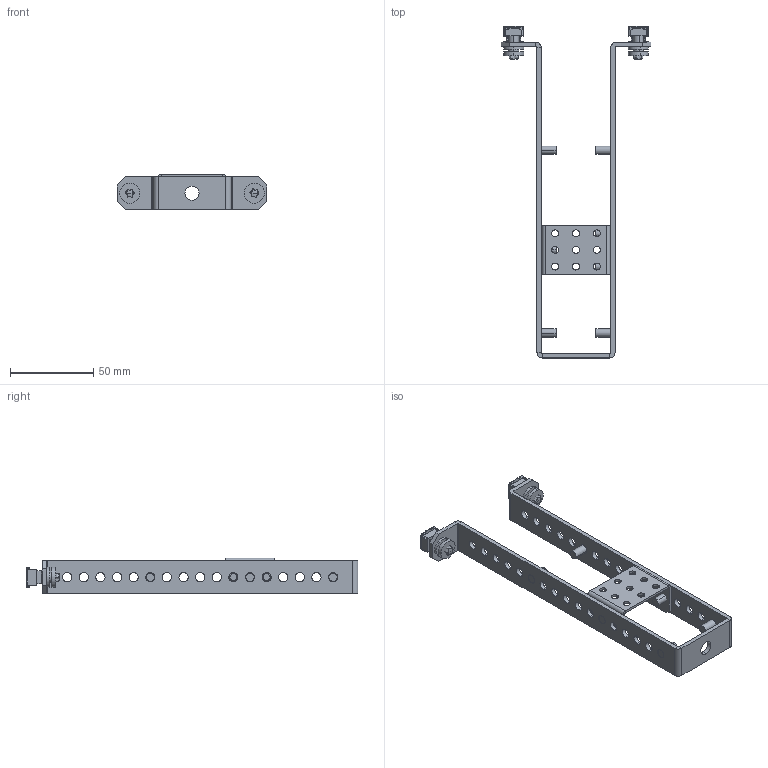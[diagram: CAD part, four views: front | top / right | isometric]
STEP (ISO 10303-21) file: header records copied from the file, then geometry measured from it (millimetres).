
FILE_DESCRIPTION(('CAx-IF Rec.Pracs.---Model Styling and Organization---1.2---2011-12-15','CAx-IF Rec.Pracs.---Geometric and Assembly Validation Properties---4.1---2014-06-16','CAx-IF Rec.Pracs.---PMI Polyline Presentation---2.0---2013-05-24'),'2;1');
FILE_NAME('R5BBMBRS.stp','2021-05-06T03:15:13+03:00',(''),(''),'STEP Interface 4.4 by CT CoreTechnologie','3D_Evolution4.4 by CT CoreTechnologie','');
FILE_SCHEMA(('AUTOMOTIVE_DESIGN { 1 0 10303 214 1 1 1 1 }'));
Length unit declared in the file: millimetre
Products named in the file (7): R5BBMBRS; M5x12 DIN 7500 C Torx Zinc_stright; M6x16 DIN 7985 Torx cl.8,8 Zinc_stright; 6 DIN 125 A Zinc; M6 A3400002 Zinc_straight; RB.1852.00.00.0; RB.1851.00.00.0
Assembly tree (15 placements, depth 2):
  R5BBMBRS
    M5x12 DIN 7500 C Torx Zinc_stright  x7
    M6x16 DIN 7985 Torx cl.8,8 Zinc_stright  x2
    6 DIN 125 A Zinc  x2
    M6 A3400002 Zinc_straight  x2
    RB.1852.00.00.0
    RB.1851.00.00.0
Bounding box: 90 x 199.8 x 21.5 mm (x, y, z)
Surface area: 30955.8 mm2 (no closed solid volume)
Topology: 0 solids, 19 shells, 432 faces, 1148 edges, 752 vertices
Faces by surface type: cylinder 232, plane 188, bspline 12
Entity records: 9880 total; most frequent: CARTESIAN_POINT 1855, DIRECTION 1664, ORIENTED_EDGE 1534, EDGE_CURVE 767, AXIS2_PLACEMENT_3D 627, VERTEX_POINT 504, VECTOR 410, LINE 410
